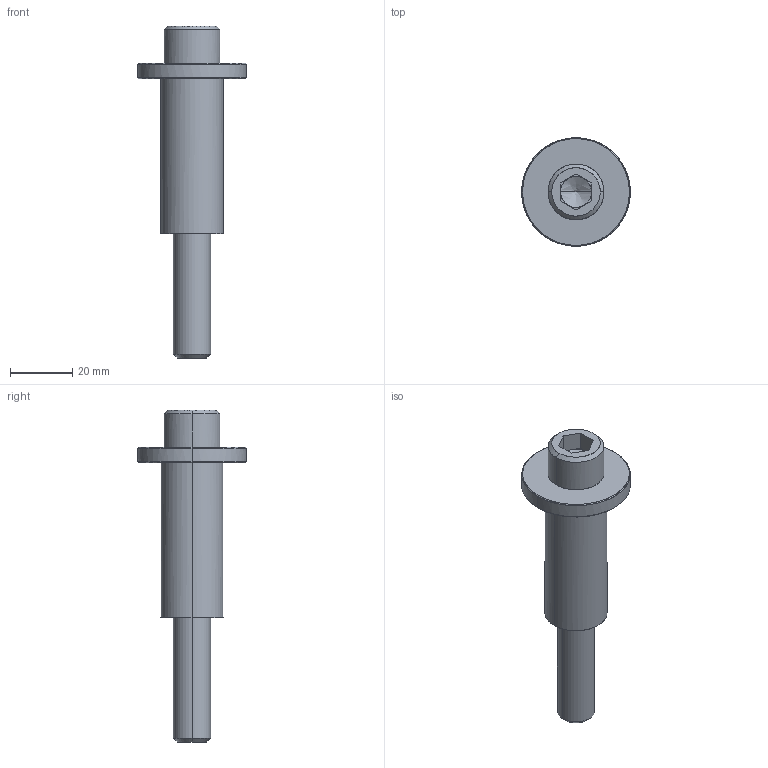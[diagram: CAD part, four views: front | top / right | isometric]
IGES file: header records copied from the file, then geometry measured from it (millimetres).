
Global section: file name: E:\UnigraphicsGraphicData\MISUMI_PRESS-PARTS\IGES\3d_sbrh20-50-95-35_05054_r00.igs; native system: NX V5.0; preprocessor: UGS NX IGES V5.0; author: MISUMI; date: 20110105.162429; units: millimetre
Bounding box: 35 x 34.99 x 107 mm (x, y, z)
Surface area: 12705.4 mm2 (no closed solid volume)
Topology: 0 solids, 0 shells, 45 faces, 274 edges, 272 vertices
Faces by surface type: bspline 45
